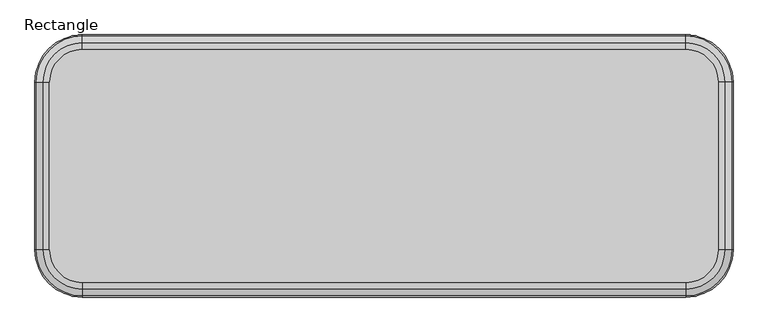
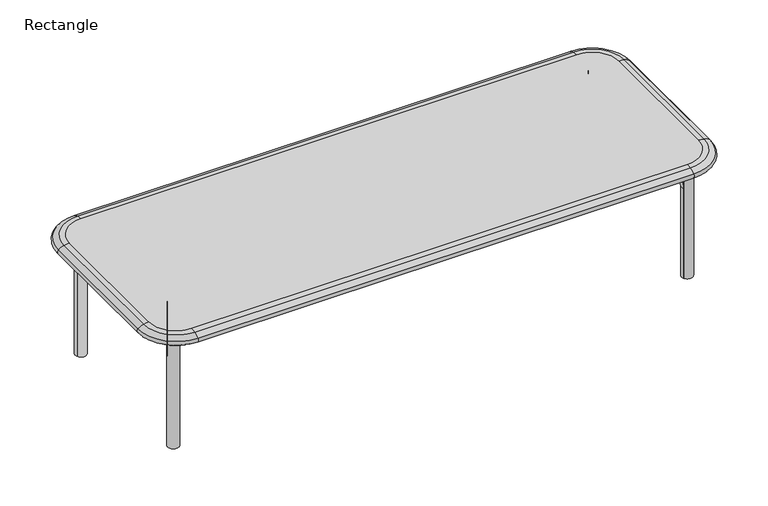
"""IFC4 building model written with IfcOpenShell, lengths in millimetres: furniture geometry, Haworth_Openest_SprigTable_Rectangle : Rectangle."""

from ifc_helpers import new_model, si_unit, point, frame, frame_2d, origin, origin_with_axes, place, context, project, spatial, polyline, circle_curve, ellipse_curve, trimmed, segment, composite_curve, outline, extrude, source, transform, mapped, element, save
from ifc_brep_helpers import plane_surface, cylinder_surface, revolved_surface, advanced_brep


def rectangle_93412eb4(model_context):
    return source(origin(), model_context, "Body", "SolidModel", [
        extrude(outline(composite_curve([segment(polyline([(-182.5092077, 0.0), (0.0, 0.0), (0.0, -15.3909162), (-224.2682915, -15.3909162), (-224.2682915, 41.7590838)]), True, "CONTINUOUS"), segment(trimmed(circle_curve(frame_2d((-182.5092077, 41.7590838)), 41.7590838), [point((-224.2682915, 41.7590838))], [point((-182.5092077, 0.0))], True, "CARTESIAN"), True, "CONTINUOUS")], self_intersect=False)), frame((479.78078, 1.1365675, 264.0090838), z_axis=(0.8665866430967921, -0.4990266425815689, 0.0), x_axis=(-0.4990266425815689, -0.8665866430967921, 0.0)), (0.0, 0.0, 1.0), 26.122889),
        extrude(outline(composite_curve([segment(polyline([(0.0, 0.0), (224.6952016, 0.0), (224.6952016, -15.3909162), (41.7590839, -15.3909162)]), True, "CONTINUOUS"), segment(trimmed(circle_curve(frame_2d((41.7590839, -57.15)), 41.7590838), [point((41.7590839, -15.3909162))], [point((0.0, -57.15))], True, "CARTESIAN"), True, "CONTINUOUS"), segment(polyline([(0.0, -57.15), (0.0, 0.0)]), True, "CONTINUOUS")], self_intersect=False)), frame((591.800489, -193.5184196, 279.4), z_axis=(0.8665866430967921, 0.4990266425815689, 0.0), x_axis=(-0.4990266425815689, 0.8665866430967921, 0.0)), (0.0, 0.0, 1.0), 25.7081538),
        advanced_brep(
        [(591.8058003, 195.4215784, 0.0), (614.4288723, 182.3601417, 0.0), (591.8058003, 195.4215784, 222.25), (614.4288723, 182.3601417, 222.25), (593.5493304, 146.1957143, 264.0090838), (570.9262584, 159.257151, 264.0090838), (479.7369599, 1.3126528, 264.0090838), (502.3600319, -11.7487839, 264.0090838)],
        [
            (0, 1),
            (1, 0, circle_curve(frame((602.9716509, 188.6385255, 0.0), z_axis=(0.0, 0.0, -1.0), x_axis=(0.4999999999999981, 0.8660254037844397, 0.0)), 13.0646862)),
            (0, 2),
            (2, 3),
            (3, 1),
            (3, 2, circle_curve(frame((602.9716509, 188.6385255, 222.25), z_axis=(0.0, 0.0, -1.0), x_axis=(0.4999999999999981, 0.8660254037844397, 0.0)), 13.0646862)),
            (4, 3, circle_curve(frame((593.5493304, 146.1957143, 222.25), z_axis=(-0.8660254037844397, 0.4999999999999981, 0.0), x_axis=(0.4999999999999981, 0.8660254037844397, 0.0)), 41.7590838)),
            (2, 5, circle_curve(frame((570.9262584, 159.257151, 222.25), z_axis=(0.8660254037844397, -0.4999999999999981, 0.0), x_axis=(0.4999999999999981, 0.8660254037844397, 0.0)), 41.7590838)),
            (5, 4),
            (4, 5, circle_curve(frame((582.2377944, 152.7264326, 263.717713), z_axis=(0.499999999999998, 0.8660254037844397, 0.0), x_axis=(0.0, 0.0, 1.0)), 13.0646862)),
            (6, 7, circle_curve(frame((491.0484959, -5.2180655, 263.717713), z_axis=(-0.49999999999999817, -0.8660254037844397, 0.0), x_axis=(0.0, 0.0, 1.0)), 13.0646862)),
            (7, 6),
            (5, 6),
            (7, 4),
        ],
        [
            plane_surface(frame((591.8058003, 195.4215784, 0.0), z_axis=(0.0, 0.0, -1.0), x_axis=(-0.8660254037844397, 0.4999999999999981, 0.0))),
            plane_surface(frame((591.8058003, 195.4215784, 0.0), z_axis=(0.49999999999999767, 0.86602540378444, 0.0), x_axis=(0.0, 0.0, 1.0))),
            cylinder_surface(frame((602.9716509, 188.6385255, 0.0), z_axis=(0.0, 0.0, -1.0), x_axis=(0.4999999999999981, 0.8660254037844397, 0.0)), 13.0646862),
            cylinder_surface(frame((570.9262584, 159.257151, 222.25), z_axis=(0.8660254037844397, -0.4999999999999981, 0.0), x_axis=(0.4999999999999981, 0.8660254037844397, 0.0)), 41.7590838),
            revolved_surface(trimmed(ellipse_curve(frame((602.9716509, 188.6385255, 222.25), z_axis=(0.0, 0.0, -1.0), x_axis=(0.4999999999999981, 0.8660254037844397, 0.0)), 13.0646862, 13.0646862), [point((614.4288723, 182.3601417, 222.25))], [point((591.8058003, 195.4215784, 222.25))], True, "CARTESIAN"), (570.9262584, 159.257151, 222.25), (0.8660254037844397, -0.4999999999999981, 0.0)),
            plane_surface(frame((479.7369599, 1.3126528, 264.0090838), z_axis=(-0.4999999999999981, -0.8660254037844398, 0.0), x_axis=(-0.8660254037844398, 0.4999999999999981, 0.0))),
            plane_surface(frame((570.9262584, 159.257151, 264.0090838), z_axis=(0.0, 0.0, 1.0), x_axis=(-0.499999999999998, -0.8660254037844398, 0.0))),
            cylinder_surface(frame((582.2377944, 152.7264326, 263.717713), z_axis=(0.49999999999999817, 0.8660254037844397, 0.0), x_axis=(0.0, 0.0, 1.0)), 13.0646862),
        ],
        [
            (0, [[1, 2]]),
            (1, [[-1, 3, 4, 5]]),
            (2, [[-2, -5, 6, -3]]),
            (3, [[7, -4, 8, 9]]),
            (4, [[-8, -6, -7, 10]]),
            (5, [[11, 12]]),
            (6, [[-9, 13, -12, 14]]),
            (7, [[-10, -14, -11, -13]]),
        ],
    ),
        advanced_brep(
        [(591.800489, -193.5184196, 0.0), (614.4382222, -180.4824098, 0.0), (614.4382222, -180.4824098, 222.25), (591.800489, -193.5184196, 222.25), (570.9615936, -157.3305553, 264.0090838), (593.5993268, -144.2945455, 264.0090838), (479.9098207, 0.7857525, 264.0090838), (502.5475539, 13.8217623, 264.0090838)],
        [
            (0, 1, circle_curve(frame((602.9739538, -186.7479166, 0.0), z_axis=(0.0, 0.0, -1.0), x_axis=(-0.4990266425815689, 0.8665866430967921, 0.0)), 13.0646862)),
            (1, 0),
            (1, 2),
            (2, 3),
            (3, 0),
            (3, 2, circle_curve(frame((602.9739538, -186.7479166, 222.25), z_axis=(0.0, 0.0, -1.0), x_axis=(-0.4990266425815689, 0.8665866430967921, 0.0)), 13.0646862)),
            (4, 3, circle_curve(frame((570.9615936, -157.3305553, 222.25), z_axis=(0.8665866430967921, 0.4990266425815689, 0.0), x_axis=(0.4990266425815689, -0.8665866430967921, 0.0)), 41.7590838)),
            (2, 5, circle_curve(frame((593.5993268, -144.2945455, 222.25), z_axis=(-0.8665866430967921, -0.4990266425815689, 0.0), x_axis=(0.4990266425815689, -0.8665866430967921, 0.0)), 41.7590838)),
            (5, 4),
            (4, 5, circle_curve(frame((582.2804602, -150.8125504, 263.717713), z_axis=(0.4990266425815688, -0.8665866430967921, 0.0), x_axis=(0.0, 0.0, -1.0)), 13.0646862)),
            (6, 7),
            (7, 6, circle_curve(frame((491.2286873, 7.3037574, 263.717713), z_axis=(-0.4990266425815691, 0.8665866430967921, 0.0), x_axis=(0.0, 0.0, -1.0)), 13.0646862)),
            (5, 7),
            (6, 4),
        ],
        [
            plane_surface(frame((591.800489, -193.5184196, 0.0), z_axis=(0.0, 0.0, -1.0), x_axis=(-0.8665866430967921, -0.4990266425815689, 0.0))),
            plane_surface(frame((614.4382222, -180.4824098, 0.0), z_axis=(0.4990266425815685, -0.8665866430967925, 0.0), x_axis=(0.0, 0.0, 1.0))),
            cylinder_surface(frame((602.9739538, -186.7479166, 0.0), z_axis=(0.0, 0.0, -1.0), x_axis=(-0.4990266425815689, 0.8665866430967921, 0.0)), 13.0646862),
            cylinder_surface(frame((570.9615936, -157.3305553, 222.25), z_axis=(-0.8665866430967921, -0.4990266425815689, 0.0), x_axis=(0.4990266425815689, -0.8665866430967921, 0.0)), 41.7590838),
            revolved_surface(trimmed(ellipse_curve(frame((602.9739538, -186.7479166, 222.25), z_axis=(0.0, 0.0, -1.0), x_axis=(-0.4990266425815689, 0.8665866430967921, 0.0)), 13.0646862, 13.0646862), [point((591.800489, -193.5184196, 222.25))], [point((614.4382222, -180.4824098, 222.25))], True, "CARTESIAN"), (570.9615936, -157.3305553, 222.25), (-0.8665866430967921, -0.4990266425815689, 0.0)),
            plane_surface(frame((479.9098207, 0.7857525, 264.0090838), z_axis=(-0.49902664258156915, 0.8665866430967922, 0.0), x_axis=(-0.8665866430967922, -0.49902664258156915, 0.0))),
            plane_surface(frame((593.5993268, -144.2945455, 264.0090838), z_axis=(0.0, 0.0, 1.0), x_axis=(-0.49902664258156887, 0.8665866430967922, 0.0))),
            cylinder_surface(frame((582.2804602, -150.8125504, 263.717713), z_axis=(0.4990266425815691, -0.8665866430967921, 0.0), x_axis=(0.0, 0.0, -1.0)), 13.0646862),
        ],
        [
            (0, [[1, 2]]),
            (1, [[-2, 3, 4, 5]]),
            (2, [[-1, -5, 6, -3]]),
            (3, [[7, -4, 8, 9]]),
            (4, [[-8, -6, -7, 10]]),
            (5, [[11, 12]]),
            (6, [[-9, 13, -11, 14]]),
            (7, [[-10, -14, -12, -13]]),
        ],
    ),
        extrude(outline(composite_curve([segment(polyline([(614.4387781, 182.3714159), (591.8059029, 195.4217561)]), True, "CONTINUOUS"), segment(trimmed(circle_curve(frame_2d((603.1223405, 188.896586)), 13.0629095), [point((591.8059029, 195.4217561))], [point((614.4387781, 182.3714159))], False, "CARTESIAN"), True, "CONTINUOUS")], self_intersect=False)), origin_with_axes(), (0.0, 0.0, 1.0), 279.4),
        extrude(outline(composite_curve([segment(polyline([(591.8054331, -193.5270053), (614.4382222, -180.4824098)]), True, "CONTINUOUS"), segment(trimmed(circle_curve(frame_2d((603.1218277, -187.0047075)), 13.0614376), [point((614.4382222, -180.4824098))], [point((591.8054331, -193.5270053))], False, "CARTESIAN"), True, "CONTINUOUS")], self_intersect=False)), origin_with_axes(), (0.0, 0.0, 1.0), 279.4),
        extrude(outline(composite_curve([segment(polyline([(41.7590838, 41.7590838), (41.7590838, 224.2682915), (57.15, 224.2682915), (57.15, 0.0), (0.0, 0.0)]), True, "CONTINUOUS"), segment(trimmed(circle_curve(frame_2d((0.0, 41.7590838)), 41.7590838), [point((0.0, 0.0))], [point((41.7590838, 41.7590838))], True, "CARTESIAN"), True, "CONTINUOUS")], self_intersect=False)), frame((-614.3343792, 182.4484558, 222.25), z_axis=(0.8665866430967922, 0.49902664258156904, 0.0), x_axis=(0.0, 0.0, 1.0)), (0.0, 0.0, 1.0), 26.122889),
        extrude(outline(composite_curve([segment(polyline([(-57.15, 0.0), (0.0, 0.0)]), True, "CONTINUOUS"), segment(trimmed(circle_curve(frame_2d((0.0, -41.7590839)), 41.7590838), [point((0.0, 0.0))], [point((-41.7590838, -41.7590839))], True, "CARTESIAN"), True, "CONTINUOUS"), segment(polyline([(-41.7590838, -41.7590839), (-41.7590838, -224.6952016), (-57.15, -224.6952016), (-57.15, 0.0)]), True, "CONTINUOUS")], self_intersect=False)), frame((-591.800489, -193.5184196, 222.25), z_axis=(-0.8665866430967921, 0.4990266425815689, 0.0), x_axis=(0.0, 0.0, -1.0)), (0.0, 0.0, 1.0), 25.7081538),
        advanced_brep(
        [(-591.800489, -193.5184196, 0.0), (-614.4382222, -180.4824098, 0.0), (-591.800489, -193.5184196, 222.25), (-614.4382222, -180.4824098, 222.25), (-570.9615936, -157.3305553, 264.0090838), (-593.5993268, -144.2945455, 264.0090838), (-479.9098207, 0.7857525, 264.0090838), (-480.2801796, 0.9990248, 260.3910704), (-480.2801796, 0.9990248, 264.0090838), (-480.6272806, 1.198904, 259.1321959), (-494.753329, 9.3334334, 251.3022653), (-479.7369599, 1.3126528, 264.0090838), (-570.9262584, 159.257151, 264.0090838), (-593.5493304, 146.1957143, 264.0090838), (-509.8259125, 1.1825006, 264.0090838), (-494.7487547, 1.1909708, 250.6530268), (-494.7439556, -7.3516402, 251.3695365), (-591.8058003, 195.4215784, 0.0), (-614.4288723, 182.3601417, 0.0), (-614.4288723, 182.3601417, 222.25), (-591.8058003, 195.4215784, 222.25)],
        [
            (0, 1),
            (1, 0, circle_curve(frame((-602.9739538, -186.7479166, 0.0), z_axis=(0.0, 0.0, -1.0), x_axis=(-0.4990266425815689, -0.8665866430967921, 0.0)), 13.0646862)),
            (0, 2),
            (2, 3),
            (3, 1),
            (3, 2, circle_curve(frame((-602.9739538, -186.7479166, 222.25), z_axis=(0.0, 0.0, -1.0), x_axis=(-0.4990266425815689, -0.8665866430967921, 0.0)), 13.0646862)),
            (2, 4, circle_curve(frame((-570.9615936, -157.3305553, 222.25), z_axis=(-0.8665866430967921, 0.4990266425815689, 0.0), x_axis=(-0.4990266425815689, -0.8665866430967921, 0.0)), 41.7590838)),
            (4, 5),
            (5, 3, circle_curve(frame((-593.5993268, -144.2945455, 222.25), z_axis=(0.8665866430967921, -0.4990266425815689, 0.0), x_axis=(-0.4990266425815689, -0.8665866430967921, 0.0)), 41.7590838)),
            (5, 4, circle_curve(frame((-582.2804602, -150.8125504, 263.717713), z_axis=(-0.4990266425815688, -0.8665866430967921, 0.0), x_axis=(0.0, 0.0, 1.0)), 13.0646862)),
            (6, 7, circle_curve(frame((-491.2286873, 7.3037574, 263.717713), z_axis=(0.4990266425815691, 0.8665866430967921, 0.0), x_axis=(0.0, 0.0, 1.0)), 13.0646862)),
            (7, 8),
            (8, 6),
            (9, 10, circle_curve(frame((-491.2286873, 7.3037574, 263.717713), z_axis=(0.4990266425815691, 0.8665866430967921, 0.0), x_axis=(0.0, 0.0, 1.0)), 13.0646862)),
            (10, 9, ellipse_curve(frame((-501.788925, 13.3849035, 263.717713), z_axis=(-0.49902664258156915, -0.8665866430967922, 0.0), x_axis=(-0.8665866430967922, 0.4990266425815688, 0.0)), 26.0786377, 13.0646862)),
            (4, 6),
            (8, 11),
            (11, 12),
            (12, 13),
            (13, 14),
            (14, 5),
            (14, 15, ellipse_curve(frame((-494.7487547, 1.1909708, 263.717713), z_axis=(0.0005617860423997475, -0.9999998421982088, 0.0), x_axis=(-0.9999998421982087, -0.0005617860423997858, 0.0)), 15.0809111, 13.0646862)),
            (15, 16, ellipse_curve(frame((-494.7487547, 1.1909708, 263.717713), z_axis=(-0.9999998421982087, -0.0005617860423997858, 0.0), x_axis=(0.0005617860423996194, -0.9999998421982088, 0.0)), 26.1548263, 13.0646862)),
            (16, 7, ellipse_curve(frame((-502.1205243, -11.6105041, 263.717713), z_axis=(0.4999999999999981, -0.8660254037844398, 0.0), x_axis=(-0.8660254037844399, -0.499999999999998, 0.0)), 26.0786377, 13.0646862)),
            (9, 15, ellipse_curve(frame((-494.7487547, 1.1909708, 263.717713), z_axis=(-0.0005617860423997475, 0.9999998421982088, 0.0), x_axis=(-0.9999998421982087, -0.0005617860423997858, 0.0)), 15.0809111, 13.0646862)),
            (15, 10, ellipse_curve(frame((-494.7487547, 1.1909708, 263.717713), z_axis=(0.9999998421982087, 0.0005617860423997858, 0.0), x_axis=(0.0005617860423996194, -0.9999998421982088, 0.0)), 26.1548263, 13.0646862)),
            (17, 18, circle_curve(frame((-602.9716509, 188.6385255, 0.0), z_axis=(0.0, 0.0, -1.0), x_axis=(0.4999999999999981, -0.8660254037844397, 0.0)), 13.0646862)),
            (18, 17),
            (18, 19),
            (19, 20),
            (20, 17),
            (20, 19, circle_curve(frame((-602.9716509, 188.6385255, 222.25), z_axis=(0.0, 0.0, -1.0), x_axis=(0.4999999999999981, -0.8660254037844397, 0.0)), 13.0646862)),
            (19, 13, circle_curve(frame((-593.5493304, 146.1957143, 222.25), z_axis=(0.8660254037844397, 0.4999999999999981, 0.0), x_axis=(-0.4999999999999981, 0.8660254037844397, 0.0)), 41.7590838)),
            (12, 20, circle_curve(frame((-570.9262584, 159.257151, 222.25), z_axis=(-0.8660254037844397, -0.4999999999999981, 0.0), x_axis=(-0.4999999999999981, 0.8660254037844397, 0.0)), 41.7590838)),
            (12, 13, circle_curve(frame((-582.2377944, 152.7264326, 263.717713), z_axis=(-0.499999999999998, 0.8660254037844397, 0.0), x_axis=(0.0, 0.0, -1.0)), 13.0646862)),
            (16, 11, circle_curve(frame((-491.0484959, -5.2180655, 263.717713), z_axis=(0.49999999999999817, -0.8660254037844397, 0.0), x_axis=(0.0, 0.0, -1.0)), 13.0646862)),
        ],
        [
            plane_surface(frame((-591.800489, -193.5184196, 0.0), z_axis=(0.0, 0.0, -1.0), x_axis=(0.8665866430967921, -0.4990266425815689, 0.0))),
            plane_surface(frame((-591.800489, -193.5184196, 0.0), z_axis=(-0.4990266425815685, -0.8665866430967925, 0.0), x_axis=(0.0, 0.0, 1.0))),
            cylinder_surface(frame((-602.9739538, -186.7479166, 0.0), z_axis=(0.0, 0.0, -1.0), x_axis=(-0.4990266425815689, -0.8665866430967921, 0.0)), 13.0646862),
            cylinder_surface(frame((-570.9615936, -157.3305553, 222.25), z_axis=(-0.8665866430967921, 0.4990266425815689, 0.0), x_axis=(-0.4990266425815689, -0.8665866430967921, 0.0)), 41.7590838),
            revolved_surface(trimmed(ellipse_curve(frame((-602.9739538, -186.7479166, 222.25), z_axis=(0.0, 0.0, -1.0), x_axis=(-0.4990266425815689, -0.8665866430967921, 0.0)), 13.0646862, 13.0646862), [point((-614.4382222, -180.4824098, 222.25))], [point((-591.800489, -193.5184196, 222.25))], True, "CARTESIAN"), (-570.9615936, -157.3305553, 222.25), (-0.8665866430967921, 0.4990266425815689, 0.0)),
            plane_surface(frame((-479.9098207, 0.7857525, 264.0090838), z_axis=(0.49902664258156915, 0.8665866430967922, 0.0), x_axis=(0.8665866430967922, -0.49902664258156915, 0.0))),
            plane_surface(frame((-570.9615936, -157.3305553, 264.0090838), z_axis=(0.0, 0.0, 1.0000000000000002), x_axis=(0.4990266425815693, 0.866586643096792, 0.0))),
            cylinder_surface(frame((-582.2804602, -150.8125504, 263.717713), z_axis=(-0.4990266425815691, -0.8665866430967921, 0.0), x_axis=(0.0, 0.0, 1.0)), 13.0646862),
            plane_surface(frame((-591.8058003, 195.4215784, 0.0), z_axis=(0.0, 0.0, -1.0), x_axis=(0.8660254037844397, 0.4999999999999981, 0.0))),
            plane_surface(frame((-614.4288723, 182.3601417, 0.0), z_axis=(-0.49999999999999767, 0.86602540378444, 0.0), x_axis=(0.0, 0.0, 1.0))),
            cylinder_surface(frame((-602.9716509, 188.6385255, 0.0), z_axis=(0.0, 0.0, -1.0), x_axis=(0.4999999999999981, -0.8660254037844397, 0.0)), 13.0646862),
            cylinder_surface(frame((-570.9262584, 159.257151, 222.25), z_axis=(0.8660254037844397, 0.4999999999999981, 0.0), x_axis=(-0.4999999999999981, 0.8660254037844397, 0.0)), 41.7590838),
            revolved_surface(trimmed(ellipse_curve(frame((-602.9716509, 188.6385255, 222.25), z_axis=(0.0, 0.0, -1.0), x_axis=(0.4999999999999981, -0.8660254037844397, 0.0)), 13.0646862, 13.0646862), [point((-591.8058003, 195.4215784, 222.25))], [point((-614.4288723, 182.3601417, 222.25))], True, "CARTESIAN"), (-570.9262584, 159.257151, 222.25), (0.8660254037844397, 0.4999999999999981, 0.0)),
            plane_surface(frame((-479.7369599, 1.3126528, 264.0090838), z_axis=(0.4999999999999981, -0.8660254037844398, 0.0), x_axis=(0.8660254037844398, 0.4999999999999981, 0.0))),
            cylinder_surface(frame((-582.2377944, 152.7264326, 263.717713), z_axis=(-0.49999999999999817, 0.8660254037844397, 0.0), x_axis=(0.0, 0.0, -1.0)), 13.0646862),
        ],
        [
            (0, [[1, 2]]),
            (1, [[-1, 3, 4, 5]]),
            (2, [[-2, -5, 6, -3]]),
            (3, [[-4, 7, 8, 9]]),
            (4, [[-6, -9, 10, -7]]),
            (5, [[11, 12, 13]]),
            (5, [[14, 15]]),
            (6, [[-8, 16, -13, 17, 18, 19, 20, 21]]),
            (7, [[-10, -21, 22, 23, 24, -11, -16]]),
            (7, [[-14, 25, 26]]),
            (8, [[27, 28]]),
            (9, [[-28, 29, 30, 31]]),
            (10, [[-27, -31, 32, -29]]),
            (11, [[-30, 33, -19, 34]]),
            (12, [[-32, -34, 35, -33]]),
            (13, [[-17, -12, -24, 36]]),
            (14, [[-35, -18, -36, -23, -25, -15, -26, -22, -20]]),
        ],
    ),
        extrude(outline(composite_curve([segment(trimmed(circle_curve(frame_2d((-603.1223405, 188.896586)), 13.0629095), [point((-614.4387781, 182.3714159))], [point((-591.8059029, 195.4217561))], False, "CARTESIAN"), True, "CONTINUOUS"), segment(polyline([(-591.8059029, 195.4217561), (-614.4387781, 182.3714159)]), True, "CONTINUOUS")], self_intersect=False)), origin_with_axes(), (0.0, 0.0, 1.0), 279.4),
        extrude(outline(composite_curve([segment(trimmed(circle_curve(frame_2d((-603.1218277, -187.0047075)), 13.0614376), [point((-591.8054331, -193.5270053))], [point((-614.4382222, -180.4824098))], False, "CARTESIAN"), True, "CONTINUOUS"), segment(polyline([(-614.4382222, -180.4824098), (-591.8054331, -193.5270053)]), True, "CONTINUOUS")], self_intersect=False)), origin_with_axes(), (0.0, 0.0, 1.0), 279.4),
        advanced_brep(
        [(-581.9759441, -237.0262078, 280.6571816), (-657.8274734, -161.1746784, 280.6571816), (-645.1970453, -161.1746784, 279.3296701), (-581.9759441, -224.3957797, 279.3296701), (-581.9759441, -250.2967471, 287.4188591), (-671.0980127, -161.1746784, 287.4188591), (-581.9759441, -250.2967471, 296.6404811), (-671.0980127, -161.1746784, 296.6404811), (-581.9759441, -237.0262078, 303.4021586), (-657.8274734, -161.1746784, 303.4021586), (-581.9759441, -224.3957797, 304.7296701), (-645.1970453, -161.1746784, 304.7296701), (581.9759441, -224.3957797, 279.3296701), (581.9759441, -237.0262078, 280.6571816), (581.9759441, -250.2967471, 287.4188591), (581.9759441, -250.2967471, 296.6404811), (581.9759441, -237.0262078, 303.4021586), (581.9759441, -224.3957797, 304.7296701), (645.1970453, -161.1746784, 279.3296701), (657.8274734, -161.1746784, 280.6571816), (671.0980127, -161.1746784, 287.4188591), (671.0980127, -161.1746784, 296.6404811), (657.8274734, -161.1746784, 303.4021586), (645.1970453, -161.1746784, 304.7296701), (645.1970453, 162.8759625, 279.3296701), (657.8274734, 162.8759625, 280.6571816), (671.0980127, 162.8759625, 287.4188591), (671.0980127, 162.8759625, 296.6404811), (657.8274734, 162.8759625, 303.4021586), (645.1970453, 162.8759625, 304.7296701), (581.9759625, 226.0970453, 279.3296701), (581.9759625, 238.7274734, 280.6571816), (581.9759625, 251.9980127, 287.4188591), (581.9759625, 251.9980127, 296.6404811), (581.9759625, 238.7274734, 303.4021586), (581.9759625, 226.0970453, 304.7296701), (-581.9759625, 226.0970453, 279.3296701), (-581.9759625, 238.7274734, 280.6571816), (-581.9759625, 251.9980127, 287.4188591), (-581.9759625, 251.9980127, 296.6404811), (-581.9759625, 238.7274734, 303.4021586), (-581.9759625, 226.0970453, 304.7296701), (-645.1970453, 162.8759625, 279.3296701), (-657.8274734, 162.8759625, 280.6571816), (-671.0980127, 162.8759625, 287.4188591), (-671.0980127, 162.8759625, 296.6404811), (-657.8274734, 162.8759625, 303.4021586), (-645.1970453, 162.8759625, 304.7296701)],
        [
            (0, 1, circle_curve(frame((-581.9759441, -161.1746784, 280.6571816), z_axis=(0.0, 0.0, -1.0), x_axis=(-1.0, 0.0, 0.0)), 75.8515294)),
            (1, 2, circle_curve(frame((-645.1970453, -161.1746784, 340.0786738), z_axis=(0.0, -1.0, 0.0), x_axis=(1.0, 0.0, 0.0)), 60.7490037)),
            (2, 3, circle_curve(frame((-581.9759441, -161.1746784, 279.3296701), z_axis=(0.0, 0.0, 1.0), x_axis=(-1.0, 0.0, 0.0)), 63.2211013)),
            (3, 0, circle_curve(frame((-581.9759441, -224.3957797, 340.0786738), z_axis=(-1.0, 0.0, 0.0), x_axis=(0.0, 1.0, 0.0)), 60.7490037)),
            (0, 4, circle_curve(frame((-581.9759441, -231.0440155, 308.8011837), z_axis=(-1.0, 0.0, 0.0), x_axis=(0.0, 1.0, 0.0)), 28.7727559)),
            (4, 5, circle_curve(frame((-581.9759441, -161.1746784, 287.4188591), z_axis=(0.0, 0.0, -1.0), x_axis=(-1.0, 0.0, 0.0)), 89.1220686)),
            (5, 1, circle_curve(frame((-651.8452811, -161.1746784, 308.8011837), z_axis=(0.0, -1.0, 0.0), x_axis=(1.0, 0.0, 0.0)), 28.7727559)),
            (4, 6, circle_curve(frame((-581.9759441, -246.1451542, 292.0296701), z_axis=(-1.0, 0.0, 0.0), x_axis=(0.0, 1.0, 0.0)), 6.2044582)),
            (6, 7, circle_curve(frame((-581.9759441, -161.1746784, 296.6404811), z_axis=(0.0, 0.0, -1.0), x_axis=(-1.0, 0.0, 0.0)), 89.1220686)),
            (7, 5, circle_curve(frame((-666.9464198, -161.1746784, 292.0296701), z_axis=(0.0, -1.0, 0.0), x_axis=(1.0, 0.0, 0.0)), 6.2044582)),
            (6, 8, circle_curve(frame((-581.9759441, -231.0440155, 275.2581565), z_axis=(-1.0, 0.0, 0.0), x_axis=(0.0, 1.0, 0.0)), 28.7727559)),
            (8, 9, circle_curve(frame((-581.9759441, -161.1746784, 303.4021586), z_axis=(0.0, 0.0, -1.0), x_axis=(-1.0, 0.0, 0.0)), 75.8515294)),
            (9, 7, circle_curve(frame((-651.8452811, -161.1746784, 275.2581565), z_axis=(0.0, -1.0, 0.0), x_axis=(1.0, 0.0, 0.0)), 28.7727559)),
            (8, 10, circle_curve(frame((-581.9759441, -224.3957797, 243.9806664), z_axis=(-1.0, 0.0, 0.0), x_axis=(0.0, 1.0, 0.0)), 60.7490037)),
            (10, 11, circle_curve(frame((-581.9759441, -161.1746784, 304.7296701), z_axis=(0.0, 0.0, -1.0), x_axis=(-1.0, 0.0, 0.0)), 63.2211013)),
            (11, 9, circle_curve(frame((-645.1970453, -161.1746784, 243.9806664), z_axis=(0.0, -1.0, 0.0), x_axis=(1.0, 0.0, 0.0)), 60.7490037)),
            (3, 12),
            (12, 13, circle_curve(frame((581.9759441, -224.3957797, 340.0786738), z_axis=(-1.0, 0.0, 0.0), x_axis=(0.0, 1.0, 0.0)), 60.7490037)),
            (13, 0),
            (13, 14, circle_curve(frame((581.9759441, -231.0440155, 308.8011837), z_axis=(-1.0, 0.0, 0.0), x_axis=(0.0, 1.0, 0.0)), 28.7727559)),
            (14, 4),
            (14, 15, circle_curve(frame((581.9759441, -246.1451542, 292.0296701), z_axis=(-1.0, 0.0, 0.0), x_axis=(0.0, 1.0, 0.0)), 6.2044582)),
            (15, 6),
            (15, 16, circle_curve(frame((581.9759441, -231.0440155, 275.2581565), z_axis=(-1.0, 0.0, 0.0), x_axis=(0.0, 1.0, 0.0)), 28.7727559)),
            (16, 8),
            (16, 17, circle_curve(frame((581.9759441, -224.3957797, 243.9806664), z_axis=(-1.0, 0.0, 0.0), x_axis=(0.0, 1.0, 0.0)), 60.7490037)),
            (17, 10),
            (12, 18, circle_curve(frame((581.9759441, -161.1746784, 279.3296701), z_axis=(0.0, 0.0, 1.0), x_axis=(0.0, -1.0, 0.0)), 63.2211013)),
            (18, 19, circle_curve(frame((645.1970453, -161.1746784, 340.0786738), z_axis=(0.0, -1.0, 0.0), x_axis=(-1.0, 0.0, 0.0)), 60.7490037)),
            (19, 13, circle_curve(frame((581.9759441, -161.1746784, 280.6571816), z_axis=(0.0, 0.0, -1.0), x_axis=(0.0, -1.0, 0.0)), 75.8515294)),
            (19, 20, circle_curve(frame((651.8452811, -161.1746784, 308.8011837), z_axis=(0.0, -1.0, 0.0), x_axis=(-1.0, 0.0, 0.0)), 28.7727559)),
            (20, 14, circle_curve(frame((581.9759441, -161.1746784, 287.4188591), z_axis=(0.0, 0.0, -1.0), x_axis=(0.0, -1.0, 0.0)), 89.1220686)),
            (20, 21, circle_curve(frame((666.9464198, -161.1746784, 292.0296701), z_axis=(0.0, -1.0, 0.0), x_axis=(-1.0, 0.0, 0.0)), 6.2044582)),
            (21, 15, circle_curve(frame((581.9759441, -161.1746784, 296.6404811), z_axis=(0.0, 0.0, -1.0), x_axis=(0.0, -1.0, 0.0)), 89.1220686)),
            (21, 22, circle_curve(frame((651.8452811, -161.1746784, 275.2581565), z_axis=(0.0, -1.0, 0.0), x_axis=(-1.0, 0.0, 0.0)), 28.7727559)),
            (22, 16, circle_curve(frame((581.9759441, -161.1746784, 303.4021586), z_axis=(0.0, 0.0, -1.0), x_axis=(0.0, -1.0, 0.0)), 75.8515294)),
            (22, 23, circle_curve(frame((645.1970453, -161.1746784, 243.9806664), z_axis=(0.0, -1.0, 0.0), x_axis=(-1.0, 0.0, 0.0)), 60.7490037)),
            (23, 17, circle_curve(frame((581.9759441, -161.1746784, 304.7296701), z_axis=(0.0, 0.0, -1.0), x_axis=(0.0, -1.0, 0.0)), 63.2211013)),
            (18, 24),
            (24, 25, circle_curve(frame((645.1970453, 162.8759625, 340.0786738), z_axis=(0.0, -1.0, 0.0), x_axis=(-1.0, 0.0, 0.0)), 60.7490037)),
            (25, 19),
            (25, 26, circle_curve(frame((651.8452811, 162.8759625, 308.8011837), z_axis=(0.0, -1.0, 0.0), x_axis=(-1.0, 0.0, 0.0)), 28.7727559)),
            (26, 20),
            (26, 27, circle_curve(frame((666.9464198, 162.8759625, 292.0296701), z_axis=(0.0, -1.0, 0.0), x_axis=(-1.0, 0.0, 0.0)), 6.2044582)),
            (27, 21),
            (27, 28, circle_curve(frame((651.8452811, 162.8759625, 275.2581565), z_axis=(0.0, -1.0, 0.0), x_axis=(-1.0, 0.0, 0.0)), 28.7727559)),
            (28, 22),
            (28, 29, circle_curve(frame((645.1970453, 162.8759625, 243.9806664), z_axis=(0.0, -1.0, 0.0), x_axis=(-1.0, 0.0, 0.0)), 60.7490037)),
            (29, 23),
            (24, 30, circle_curve(frame((581.9759625, 162.8759625, 279.3296701), z_axis=(0.0, 0.0, 1.0), x_axis=(1.0, 0.0, 0.0)), 63.2210829)),
            (30, 31, circle_curve(frame((581.9759625, 226.0970453, 340.0786738), z_axis=(1.0, 0.0, 0.0), x_axis=(0.0, -1.0, 0.0)), 60.7490037)),
            (31, 25, circle_curve(frame((581.9759625, 162.8759625, 280.6571816), z_axis=(0.0, 0.0, -1.0), x_axis=(1.0, 0.0, 0.0)), 75.851511)),
            (31, 32, circle_curve(frame((581.9759625, 232.7452811, 308.8011837), z_axis=(1.0, 0.0, 0.0), x_axis=(0.0, -1.0, 0.0)), 28.7727559)),
            (32, 26, circle_curve(frame((581.9759625, 162.8759625, 287.4188591), z_axis=(0.0, 0.0, -1.0), x_axis=(1.0, 0.0, 0.0)), 89.1220502)),
            (32, 33, circle_curve(frame((581.9759625, 247.8464198, 292.0296701), z_axis=(1.0, 0.0, 0.0), x_axis=(0.0, -1.0, 0.0)), 6.2044582)),
            (33, 27, circle_curve(frame((581.9759625, 162.8759625, 296.6404811), z_axis=(0.0, 0.0, -1.0), x_axis=(1.0, 0.0, 0.0)), 89.1220502)),
            (33, 34, circle_curve(frame((581.9759625, 232.7452811, 275.2581565), z_axis=(1.0, 0.0, 0.0), x_axis=(0.0, -1.0, 0.0)), 28.7727559)),
            (34, 28, circle_curve(frame((581.9759625, 162.8759625, 303.4021586), z_axis=(0.0, 0.0, -1.0), x_axis=(1.0, 0.0, 0.0)), 75.851511)),
            (34, 35, circle_curve(frame((581.9759625, 226.0970453, 243.9806664), z_axis=(1.0, 0.0, 0.0), x_axis=(0.0, -1.0, 0.0)), 60.7490037)),
            (35, 29, circle_curve(frame((581.9759625, 162.8759625, 304.7296701), z_axis=(0.0, 0.0, -1.0), x_axis=(1.0, 0.0, 0.0)), 63.2210829)),
            (30, 36),
            (36, 37, circle_curve(frame((-581.9759625, 226.0970453, 340.0786738), z_axis=(1.0, 0.0, 0.0), x_axis=(0.0, -1.0, 0.0)), 60.7490037)),
            (37, 31),
            (37, 38, circle_curve(frame((-581.9759625, 232.7452811, 308.8011837), z_axis=(1.0, 0.0, 0.0), x_axis=(0.0, -1.0, 0.0)), 28.7727559)),
            (38, 32),
            (38, 39, circle_curve(frame((-581.9759625, 247.8464198, 292.0296701), z_axis=(1.0, 0.0, 0.0), x_axis=(0.0, -1.0, 0.0)), 6.2044582)),
            (39, 33),
            (39, 40, circle_curve(frame((-581.9759625, 232.7452811, 275.2581565), z_axis=(1.0, 0.0, 0.0), x_axis=(0.0, -1.0, 0.0)), 28.7727559)),
            (40, 34),
            (40, 41, circle_curve(frame((-581.9759625, 226.0970453, 243.9806664), z_axis=(1.0, 0.0, 0.0), x_axis=(0.0, -1.0, 0.0)), 60.7490037)),
            (41, 35),
            (36, 42, circle_curve(frame((-581.9759625, 162.8759625, 279.3296701), z_axis=(0.0, 0.0, 1.0), x_axis=(0.0, 1.0, 0.0)), 63.2210829)),
            (42, 43, circle_curve(frame((-645.1970453, 162.8759625, 340.0786738), z_axis=(0.0, 1.0, 0.0), x_axis=(1.0, 0.0, 0.0)), 60.7490037)),
            (43, 37, circle_curve(frame((-581.9759625, 162.8759625, 280.6571816), z_axis=(0.0, 0.0, -1.0), x_axis=(0.0, 1.0, 0.0)), 75.851511)),
            (43, 44, circle_curve(frame((-651.8452811, 162.8759625, 308.8011837), z_axis=(0.0, 1.0, 0.0), x_axis=(1.0, 0.0, 0.0)), 28.7727559)),
            (44, 38, circle_curve(frame((-581.9759625, 162.8759625, 287.4188591), z_axis=(0.0, 0.0, -1.0), x_axis=(0.0, 1.0, 0.0)), 89.1220502)),
            (44, 45, circle_curve(frame((-666.9464198, 162.8759625, 292.0296701), z_axis=(0.0, 1.0, 0.0), x_axis=(1.0, 0.0, 0.0)), 6.2044582)),
            (45, 39, circle_curve(frame((-581.9759625, 162.8759625, 296.6404811), z_axis=(0.0, 0.0, -1.0), x_axis=(0.0, 1.0, 0.0)), 89.1220502)),
            (45, 46, circle_curve(frame((-651.8452811, 162.8759625, 275.2581565), z_axis=(0.0, 1.0, 0.0), x_axis=(1.0, 0.0, 0.0)), 28.7727559)),
            (46, 40, circle_curve(frame((-581.9759625, 162.8759625, 303.4021586), z_axis=(0.0, 0.0, -1.0), x_axis=(0.0, 1.0, 0.0)), 75.851511)),
            (46, 47, circle_curve(frame((-645.1970453, 162.8759625, 243.9806664), z_axis=(0.0, 1.0, 0.0), x_axis=(1.0, 0.0, 0.0)), 60.7490037)),
            (47, 41, circle_curve(frame((-581.9759625, 162.8759625, 304.7296701), z_axis=(0.0, 0.0, -1.0), x_axis=(0.0, 1.0, 0.0)), 63.2210829)),
            (47, 11),
            (2, 42),
            (1, 43),
            (5, 44),
            (7, 45),
            (9, 46),
        ],
        [
            revolved_surface(trimmed(ellipse_curve(frame((-645.1970453, -161.1746784, 340.0786738), z_axis=(0.0, 1.0, 0.0), x_axis=(1.0, 0.0, 0.0)), 60.7490037, 60.7490037), [point((-645.1970453, -161.1746784, 279.3296701))], [point((-657.8274734, -161.1746784, 280.6571816))], True, "CARTESIAN"), (-581.9759441, -161.1746784, 304.8), (0.0, 0.0, 1.0)),
            revolved_surface(trimmed(ellipse_curve(frame((-651.8452811, -161.1746784, 308.8011837), z_axis=(0.0, 1.0, 0.0), x_axis=(1.0, 0.0, 0.0)), 28.7727559, 28.7727559), [point((-657.8274734, -161.1746784, 280.6571816))], [point((-671.0980127, -161.1746784, 287.4188591))], True, "CARTESIAN"), (-581.9759441, -161.1746784, 304.8), (0.0, 0.0, 1.0)),
            revolved_surface(trimmed(ellipse_curve(frame((-666.9464198, -161.1746784, 292.0296701), z_axis=(0.0, 1.0, 0.0), x_axis=(1.0, 0.0, 0.0)), 6.2044582, 6.2044582), [point((-671.0980127, -161.1746784, 287.4188591))], [point((-671.0980127, -161.1746784, 296.6404811))], True, "CARTESIAN"), (-581.9759441, -161.1746784, 304.8), (0.0, 0.0, 1.0)),
            revolved_surface(trimmed(ellipse_curve(frame((-651.8452811, -161.1746784, 275.2581565), z_axis=(0.0, 1.0, 0.0), x_axis=(1.0, 0.0, 0.0)), 28.7727559, 28.7727559), [point((-671.0980127, -161.1746784, 296.6404811))], [point((-657.8274734, -161.1746784, 303.4021586))], True, "CARTESIAN"), (-581.9759441, -161.1746784, 304.8), (0.0, 0.0, 1.0)),
            revolved_surface(trimmed(ellipse_curve(frame((-645.1970453, -161.1746784, 243.9806664), z_axis=(0.0, 1.0, 0.0), x_axis=(1.0, 0.0, 0.0)), 60.7490037, 60.7490037), [point((-657.8274734, -161.1746784, 303.4021586))], [point((-645.1970453, -161.1746784, 304.7296701))], True, "CARTESIAN"), (-581.9759441, -161.1746784, 304.8), (0.0, 0.0, 1.0)),
            cylinder_surface(frame((-581.9759441, -224.3957797, 340.0786738), z_axis=(-1.0, 0.0, 0.0), x_axis=(0.0, 1.0, 0.0)), 60.7490037),
            cylinder_surface(frame((-581.9759441, -231.0440155, 308.8011837), z_axis=(-1.0, 0.0, 0.0), x_axis=(0.0, 1.0, 0.0)), 28.7727559),
            cylinder_surface(frame((-581.9759441, -246.1451542, 292.0296701), z_axis=(-1.0, 0.0, 0.0), x_axis=(0.0, 1.0, 0.0)), 6.2044582),
            cylinder_surface(frame((-581.9759441, -231.0440155, 275.2581565), z_axis=(-1.0, 0.0, 0.0), x_axis=(0.0, 1.0, 0.0)), 28.7727559),
            cylinder_surface(frame((-581.9759441, -224.3957797, 243.9806664), z_axis=(-1.0, 0.0, 0.0), x_axis=(0.0, 1.0, 0.0)), 60.7490037),
            revolved_surface(trimmed(ellipse_curve(frame((581.9759441, -224.3957797, 340.0786738), z_axis=(-1.0, 0.0, 0.0), x_axis=(0.0, 1.0, 0.0)), 60.7490037, 60.7490037), [point((581.9759441, -224.3957797, 279.3296701))], [point((581.9759441, -237.0262078, 280.6571816))], True, "CARTESIAN"), (581.9759441, -161.1746784, 304.8), (0.0, 0.0, 1.0)),
            revolved_surface(trimmed(ellipse_curve(frame((581.9759441, -231.0440155, 308.8011837), z_axis=(-1.0, 0.0, 0.0), x_axis=(0.0, 1.0, 0.0)), 28.7727559, 28.7727559), [point((581.9759441, -237.0262078, 280.6571816))], [point((581.9759441, -250.2967471, 287.4188591))], True, "CARTESIAN"), (581.9759441, -161.1746784, 304.8), (0.0, 0.0, 1.0)),
            revolved_surface(trimmed(ellipse_curve(frame((581.9759441, -246.1451542, 292.0296701), z_axis=(-1.0, 0.0, 0.0), x_axis=(0.0, 1.0, 0.0)), 6.2044582, 6.2044582), [point((581.9759441, -250.2967471, 287.4188591))], [point((581.9759441, -250.2967471, 296.6404811))], True, "CARTESIAN"), (581.9759441, -161.1746784, 304.8), (0.0, 0.0, 1.0)),
            revolved_surface(trimmed(ellipse_curve(frame((581.9759441, -231.0440155, 275.2581565), z_axis=(-1.0, 0.0, 0.0), x_axis=(0.0, 1.0, 0.0)), 28.7727559, 28.7727559), [point((581.9759441, -250.2967471, 296.6404811))], [point((581.9759441, -237.0262078, 303.4021586))], True, "CARTESIAN"), (581.9759441, -161.1746784, 304.8), (0.0, 0.0, 1.0)),
            revolved_surface(trimmed(ellipse_curve(frame((581.9759441, -224.3957797, 243.9806664), z_axis=(-1.0, 0.0, 0.0), x_axis=(0.0, 1.0, 0.0)), 60.7490037, 60.7490037), [point((581.9759441, -237.0262078, 303.4021586))], [point((581.9759441, -224.3957797, 304.7296701))], True, "CARTESIAN"), (581.9759441, -161.1746784, 304.8), (0.0, 0.0, 1.0)),
            cylinder_surface(frame((645.1970453, -161.1746784, 340.0786738), z_axis=(0.0, -1.0, 0.0), x_axis=(-1.0, 0.0, 0.0)), 60.7490037),
            cylinder_surface(frame((651.8452811, -161.1746784, 308.8011837), z_axis=(0.0, -1.0, 0.0), x_axis=(-1.0, 0.0, 0.0)), 28.7727559),
            cylinder_surface(frame((666.9464198, -161.1746784, 292.0296701), z_axis=(0.0, -1.0, 0.0), x_axis=(-1.0, 0.0, 0.0)), 6.2044582),
            cylinder_surface(frame((651.8452811, -161.1746784, 275.2581565), z_axis=(0.0, -1.0, 0.0), x_axis=(-1.0, 0.0, 0.0)), 28.7727559),
            cylinder_surface(frame((645.1970453, -161.1746784, 243.9806664), z_axis=(0.0, -1.0, 0.0), x_axis=(-1.0, 0.0, 0.0)), 60.7490037),
            revolved_surface(trimmed(ellipse_curve(frame((645.1970453, 162.8759625, 340.0786738), z_axis=(0.0, -1.0, 0.0), x_axis=(-1.0, 0.0, 0.0)), 60.7490037, 60.7490037), [point((645.1970453, 162.8759625, 279.3296701))], [point((657.8274734, 162.8759625, 280.6571816))], True, "CARTESIAN"), (581.9759625, 162.8759625, 304.8), (0.0, 0.0, 1.0)),
            revolved_surface(trimmed(ellipse_curve(frame((651.8452811, 162.8759625, 308.8011837), z_axis=(0.0, -1.0, 0.0), x_axis=(-1.0, 0.0, 0.0)), 28.7727559, 28.7727559), [point((657.8274734, 162.8759625, 280.6571816))], [point((671.0980127, 162.8759625, 287.4188591))], True, "CARTESIAN"), (581.9759625, 162.8759625, 304.8), (0.0, 0.0, 1.0)),
            revolved_surface(trimmed(ellipse_curve(frame((666.9464198, 162.8759625, 292.0296701), z_axis=(0.0, -1.0, 0.0), x_axis=(-1.0, 0.0, 0.0)), 6.2044582, 6.2044582), [point((671.0980127, 162.8759625, 287.4188591))], [point((671.0980127, 162.8759625, 296.6404811))], True, "CARTESIAN"), (581.9759625, 162.8759625, 304.8), (0.0, 0.0, 1.0)),
            revolved_surface(trimmed(ellipse_curve(frame((651.8452811, 162.8759625, 275.2581565), z_axis=(0.0, -1.0, 0.0), x_axis=(-1.0, 0.0, 0.0)), 28.7727559, 28.7727559), [point((671.0980127, 162.8759625, 296.6404811))], [point((657.8274734, 162.8759625, 303.4021586))], True, "CARTESIAN"), (581.9759625, 162.8759625, 304.8), (0.0, 0.0, 1.0)),
            revolved_surface(trimmed(ellipse_curve(frame((645.1970453, 162.8759625, 243.9806664), z_axis=(0.0, -1.0, 0.0), x_axis=(-1.0, 0.0, 0.0)), 60.7490037, 60.7490037), [point((657.8274734, 162.8759625, 303.4021586))], [point((645.1970453, 162.8759625, 304.7296701))], True, "CARTESIAN"), (581.9759625, 162.8759625, 304.8), (0.0, 0.0, 1.0)),
            cylinder_surface(frame((581.9759625, 226.0970453, 340.0786738), z_axis=(1.0, 0.0, 0.0), x_axis=(0.0, -1.0, 0.0)), 60.7490037),
            cylinder_surface(frame((581.9759625, 232.7452811, 308.8011837), z_axis=(1.0, 0.0, 0.0), x_axis=(0.0, -1.0, 0.0)), 28.7727559),
            cylinder_surface(frame((581.9759625, 247.8464198, 292.0296701), z_axis=(1.0, 0.0, 0.0), x_axis=(0.0, -1.0, 0.0)), 6.2044582),
            cylinder_surface(frame((581.9759625, 232.7452811, 275.2581565), z_axis=(1.0, 0.0, 0.0), x_axis=(0.0, -1.0, 0.0)), 28.7727559),
            cylinder_surface(frame((581.9759625, 226.0970453, 243.9806664), z_axis=(1.0, 0.0, 0.0), x_axis=(0.0, -1.0, 0.0)), 60.7490037),
            revolved_surface(trimmed(ellipse_curve(frame((-581.9759625, 226.0970453, 340.0786738), z_axis=(1.0, 0.0, 0.0), x_axis=(0.0, -1.0, 0.0)), 60.7490037, 60.7490037), [point((-581.9759625, 226.0970453, 279.3296701))], [point((-581.9759625, 238.7274734, 280.6571816))], True, "CARTESIAN"), (-581.9759625, 162.8759625, 304.8), (0.0, 0.0, 1.0)),
            revolved_surface(trimmed(ellipse_curve(frame((-581.9759625, 232.7452811, 308.8011837), z_axis=(1.0, 0.0, 0.0), x_axis=(0.0, -1.0, 0.0)), 28.7727559, 28.7727559), [point((-581.9759625, 238.7274734, 280.6571816))], [point((-581.9759625, 251.9980127, 287.4188591))], True, "CARTESIAN"), (-581.9759625, 162.8759625, 304.8), (0.0, 0.0, 1.0)),
            revolved_surface(trimmed(ellipse_curve(frame((-581.9759625, 247.8464198, 292.0296701), z_axis=(1.0, 0.0, 0.0), x_axis=(0.0, -1.0, 0.0)), 6.2044582, 6.2044582), [point((-581.9759625, 251.9980127, 287.4188591))], [point((-581.9759625, 251.9980127, 296.6404811))], True, "CARTESIAN"), (-581.9759625, 162.8759625, 304.8), (0.0, 0.0, 1.0)),
            revolved_surface(trimmed(ellipse_curve(frame((-581.9759625, 232.7452811, 275.2581565), z_axis=(1.0, 0.0, 0.0), x_axis=(0.0, -1.0, 0.0)), 28.7727559, 28.7727559), [point((-581.9759625, 251.9980127, 296.6404811))], [point((-581.9759625, 238.7274734, 303.4021586))], True, "CARTESIAN"), (-581.9759625, 162.8759625, 304.8), (0.0, 0.0, 1.0)),
            revolved_surface(trimmed(ellipse_curve(frame((-581.9759625, 226.0970453, 243.9806664), z_axis=(1.0, 0.0, 0.0), x_axis=(0.0, -1.0, 0.0)), 60.7490037, 60.7490037), [point((-581.9759625, 238.7274734, 303.4021586))], [point((-581.9759625, 226.0970453, 304.7296701))], True, "CARTESIAN"), (-581.9759625, 162.8759625, 304.8), (0.0, 0.0, 1.0)),
            plane_surface(frame((-645.1970453, 162.8759625, 304.7296701), z_axis=(0.0, 0.0, 1.0), x_axis=(0.0, -1.0, 0.0))),
            plane_surface(frame((-632.5936779, 162.8759625, 279.3296701), z_axis=(0.0, 0.0, -1.0), x_axis=(0.0, -1.0, 0.0))),
            cylinder_surface(frame((-645.1970453, 162.8759625, 340.0786738), z_axis=(0.0, 1.0, 0.0), x_axis=(1.0, 0.0, 0.0)), 60.7490037),
            cylinder_surface(frame((-651.8452811, 162.8759625, 308.8011837), z_axis=(0.0, 1.0, 0.0), x_axis=(1.0, 0.0, 0.0)), 28.7727559),
            cylinder_surface(frame((-666.9464198, 162.8759625, 292.0296701), z_axis=(0.0, 1.0, 0.0), x_axis=(1.0, 0.0, 0.0)), 6.2044582),
            cylinder_surface(frame((-651.8452811, 162.8759625, 275.2581565), z_axis=(0.0, 1.0, 0.0), x_axis=(1.0, 0.0, 0.0)), 28.7727559),
            cylinder_surface(frame((-645.1970453, 162.8759625, 243.9806664), z_axis=(0.0, 1.0, 0.0), x_axis=(1.0, 0.0, 0.0)), 60.7490037),
        ],
        [
            (0, [[1, 2, 3, 4]]),
            (1, [[-1, 5, 6, 7]]),
            (2, [[-6, 8, 9, 10]]),
            (3, [[-9, 11, 12, 13]]),
            (4, [[-12, 14, 15, 16]]),
            (5, [[-4, 17, 18, 19]]),
            (6, [[-5, -19, 20, 21]]),
            (7, [[-8, -21, 22, 23]]),
            (8, [[-11, -23, 24, 25]]),
            (9, [[-14, -25, 26, 27]]),
            (10, [[-18, 28, 29, 30]]),
            (11, [[-20, -30, 31, 32]]),
            (12, [[-22, -32, 33, 34]]),
            (13, [[-24, -34, 35, 36]]),
            (14, [[-26, -36, 37, 38]]),
            (15, [[-29, 39, 40, 41]]),
            (16, [[-31, -41, 42, 43]]),
            (17, [[-33, -43, 44, 45]]),
            (18, [[-35, -45, 46, 47]]),
            (19, [[-37, -47, 48, 49]]),
            (20, [[-40, 50, 51, 52]]),
            (21, [[-42, -52, 53, 54]]),
            (22, [[-44, -54, 55, 56]]),
            (23, [[-46, -56, 57, 58]]),
            (24, [[-48, -58, 59, 60]]),
            (25, [[-51, 61, 62, 63]]),
            (26, [[-53, -63, 64, 65]]),
            (27, [[-55, -65, 66, 67]]),
            (28, [[-57, -67, 68, 69]]),
            (29, [[-59, -69, 70, 71]]),
            (30, [[-62, 72, 73, 74]]),
            (31, [[-64, -74, 75, 76]]),
            (32, [[-66, -76, 77, 78]]),
            (33, [[-68, -78, 79, 80]]),
            (34, [[-70, -80, 81, 82]]),
            (35, [[-15, -27, -38, -49, -60, -71, -82, 83]]),
            (36, [[-3, 84, -72, -61, -50, -39, -28, -17]]),
            (37, [[-2, 85, -73, -84]]),
            (38, [[-7, 86, -75, -85]]),
            (39, [[-10, 87, -77, -86]]),
            (40, [[-13, 88, -79, -87]]),
            (41, [[-16, -83, -81, -88]]),
        ],
    ),
    ])


if __name__ == "__main__":
    model = new_model("IFC4")
    model_context = context("Model", 3, world=origin())
    ifc_project = project(units=[si_unit("LENGTHUNIT", "METRE", prefix="MILLI")], contexts=[model_context])
    site = spatial("IfcSite", under=ifc_project)
    building = spatial("IfcBuilding", under=site)
    placement = place(None, origin())
    ifc_rectangle_shape = rectangle_93412eb4(model_context)
    element("IfcFurniture", 1, ObjectType="Haworth_Openest_SprigTable_Rectangle : Rectangle", at=placement, inside=building, context=model_context, shape_type="MappedRepresentation", body=[
        mapped(ifc_rectangle_shape, transform((0.0, 0.0, 0.0), x_axis=(1.0, 0.0, 0.0), y_axis=(0.0, 1.0, 0.0), z_axis=(0.0, 0.0, 1.0))),
    ])
    save(model, "model.ifc")
